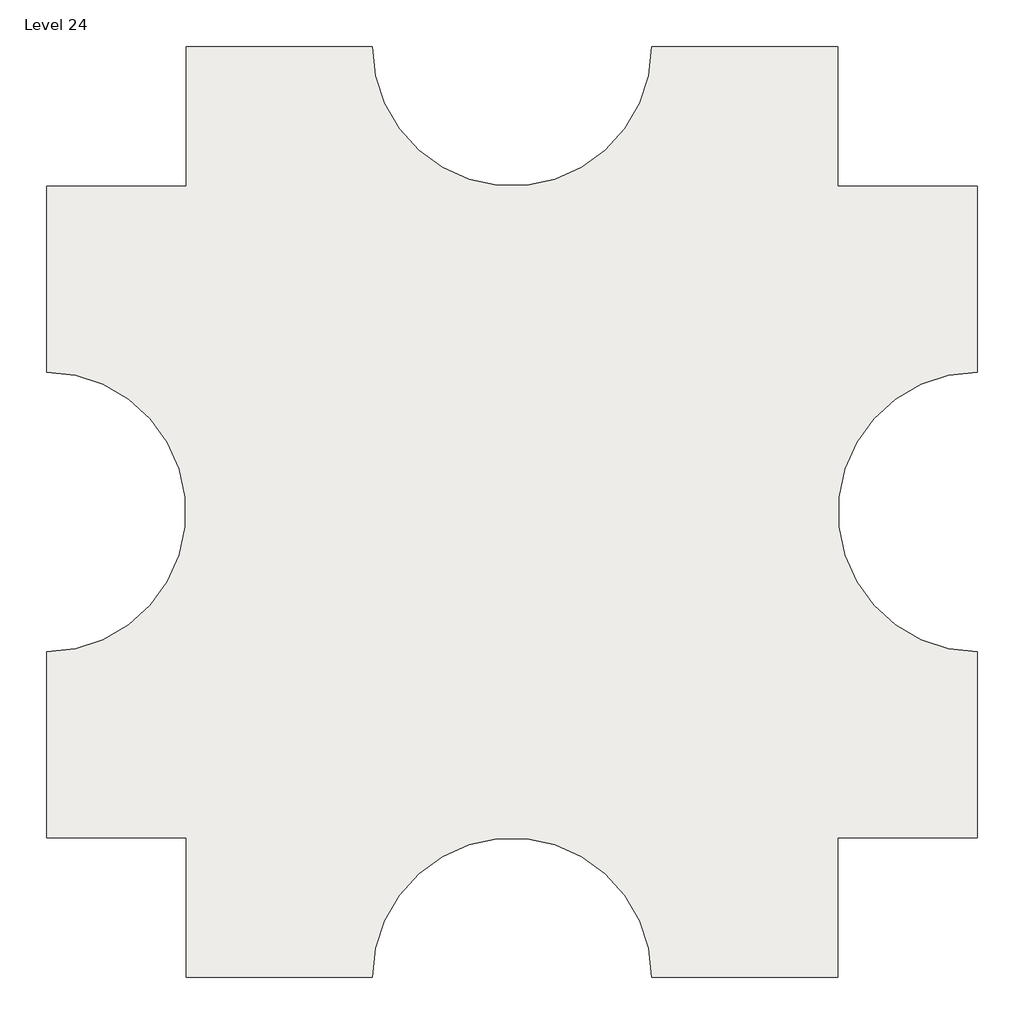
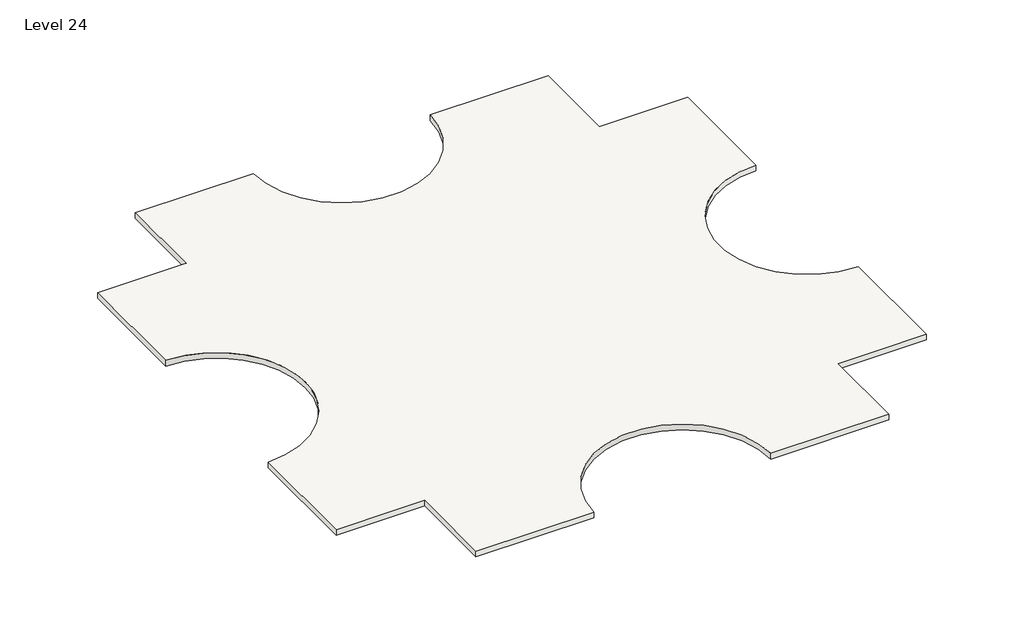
# One storey: 1 slab.
"""IFC4 building model written with IfcOpenShell, lengths in millimetres."""

import ifcopenshell
import ifcopenshell.guid

model = None  # the IFC model being written
_history = None  # IfcOwnerHistory: only IFC2X3 demands one
_inside = {}  # id of a spatial element -> (the spatial element, [elements in it])
_under = {}  # id of a project, library or spatial element -> (it, [spatial elements below it])
_declared = {}  # id of a project -> (the project, [libraries it declares])
_typed = {}  # id of a type object -> (the type object, [elements of that type])
_made_of = {}  # id of a material, layer set ... -> (it, [elements and type objects made of it])


def new_model(schema):
    """Start an empty IFC model of exactly this schema.

    Asked for "IFC4X3", IfcOpenShell would pick the latest addendum, in which some entities
    have other attributes; the version numbers below select the first issue.
    IFC2X3 requires an IfcOwnerHistory on every rooted entity: one is made here for all.
    """
    global model, _history
    if schema == "IFC4X3":
        model = ifcopenshell.file(schema_version=(4, 3, 0, 0))
    else:
        model = ifcopenshell.file(schema=schema)
    _inside.clear()
    _under.clear()
    _declared.clear()
    _typed.clear()
    _made_of.clear()
    _history = None
    if model.schema == "IFC2X3":
        org = make("IfcOrganization", Name="unknown")
        user = make(
            "IfcPersonAndOrganization",
            ThePerson=make("IfcPerson", FamilyName="unknown"),
            TheOrganization=org,
        )
        app = make(
            "IfcApplication",
            ApplicationDeveloper=org,
            Version="unknown",
            ApplicationFullName="unknown",
            ApplicationIdentifier="unknown",
        )
        _history = make(
            "IfcOwnerHistory",
            OwningUser=user,
            OwningApplication=app,
            ChangeAction="ADDED",
            CreationDate=0,
        )
    return model


def make(cls, **values):
    """One entity of the class cls with the attributes given. An attribute that is None is left unset."""
    return model.create_entity(
        cls, **{name: value for name, value in values.items() if value is not None}
    )


def rooted(cls, **values):
    """An entity with a GlobalId (a new one), such as an element, a storey or a relation."""
    return make(cls, GlobalId=ifcopenshell.guid.new(), OwnerHistory=_history, **values)


def si_unit(unit_type, name, prefix=None):
    """IfcSIUnit, for example si_unit("LENGTHUNIT", "METRE", prefix="MILLI")."""
    return make("IfcSIUnit", UnitType=unit_type, Prefix=prefix, Name=name)


def assignment(units):
    """IfcUnitAssignment: the units of a project."""
    return None if units is None else make("IfcUnitAssignment", Units=units)


def point(xyz):
    """IfcCartesianPoint."""
    return None if xyz is None else make("IfcCartesianPoint", Coordinates=xyz)


def direction(xyz):
    """IfcDirection."""
    return None if xyz is None else make("IfcDirection", DirectionRatios=xyz)


def frame(location, z_axis=None, x_axis=None):
    """IfcAxis2Placement3D, a coordinate frame: its origin and axes. An axis left out is left unset."""
    return make(
        "IfcAxis2Placement3D",
        Location=point(location),
        Axis=direction(z_axis),
        RefDirection=direction(x_axis),
    )


def frame_2d(location, x_axis=None):
    """IfcAxis2Placement2D, a coordinate frame in the plane: its origin and x axis."""
    return make(
        "IfcAxis2Placement2D", Location=point(location), RefDirection=direction(x_axis)
    )


def origin():
    """The frame at (0, 0, 0) with its axes left unset."""
    return frame((0.0, 0.0, 0.0))


def place(relative_to, where):
    """IfcLocalPlacement: puts the frame where relative to a parent placement (None: the world)."""
    return make(
        "IfcLocalPlacement", PlacementRelTo=relative_to, RelativePlacement=where
    )


def context(
    kind, dimensions, precision=None, world=None, true_north=None, identifier=None
):
    """IfcGeometricRepresentationContext, for example the 3D "Model" context."""
    return make(
        "IfcGeometricRepresentationContext",
        ContextIdentifier=identifier,
        ContextType=kind,
        CoordinateSpaceDimension=dimensions,
        Precision=precision,
        WorldCoordinateSystem=world,
        TrueNorth=true_north,
    )


def project(units=None, contexts=None):
    """IfcProject with its units and contexts."""
    return rooted(
        "IfcProject",
        Name="project",
        RepresentationContexts=contexts,
        UnitsInContext=assignment(units),
    )


def spatial(cls, under=None, at=None, **own):
    """A site, building, storey or space (cls), placed at a placement, below another one or the project."""
    s = rooted(cls, ObjectPlacement=at, **own)
    if under is not None:
        _under.setdefault(under.id(), (under, []))[1].append(s)
    return s


def polyline(points):
    """IfcPolyline through the points."""
    return make("IfcPolyline", Points=[point(p) for p in points])


def circle_curve(where, radius):
    """IfcCircle in the frame where."""
    return make("IfcCircle", Position=where, Radius=radius)


def trimmed(basis, trim1, trim2, sense, master):
    """IfcTrimmedCurve: the piece of a basis curve between two trims."""
    return make(
        "IfcTrimmedCurve",
        BasisCurve=basis,
        Trim1=trim1,
        Trim2=trim2,
        SenseAgreement=sense,
        MasterRepresentation=master,
    )


def segment(curve, same_sense, transition):
    """IfcCompositeCurveSegment."""
    return make(
        "IfcCompositeCurveSegment",
        Transition=transition,
        SameSense=same_sense,
        ParentCurve=curve,
    )


def composite_curve(segments, self_intersect=None):
    """IfcCompositeCurve: segments joined end to end."""
    return make("IfcCompositeCurve", Segments=segments, SelfIntersect=self_intersect)


def outline(outer, holes=None, kind="AREA"):
    """IfcArbitraryClosedProfileDef: a profile drawn as a closed curve; with holes, ...WithVoids."""
    if holes is None:
        return make("IfcArbitraryClosedProfileDef", ProfileType=kind, OuterCurve=outer)
    return make(
        "IfcArbitraryProfileDefWithVoids",
        ProfileType=kind,
        OuterCurve=outer,
        InnerCurves=holes,
    )


def extrude(swept, where, along, depth):
    """IfcExtrudedAreaSolid: the profile swept, set in the frame where, extruded along a direction by depth."""
    return make(
        "IfcExtrudedAreaSolid",
        SweptArea=swept,
        Position=where,
        ExtrudedDirection=direction(along),
        Depth=depth,
    )


def shape(context_of_items, identifier, shape_type, items):
    """IfcShapeRepresentation: the items that make up one representation, for example the "Body"."""
    return make(
        "IfcShapeRepresentation",
        ContextOfItems=context_of_items,
        RepresentationIdentifier=identifier,
        RepresentationType=shape_type,
        Items=items,
    )


def made_of(thing, what):
    """Note that an element or type object is made of a material, layer set ...; save() writes the relation."""
    if what is not None:
        _made_of.setdefault(what.id(), (what, []))[1].append(thing)
    return thing


def element(
    cls,
    number,
    at=None,
    inside=None,
    cuts=None,
    type_object=None,
    material=None,
    context=None,
    identifier="Body",
    shape_type=None,
    held_by="IfcProductDefinitionShape",
    body=None,
    shapes=None,
    **own,
):
    """One element of the class cls, such as IfcWall. Its Tag is "e" and its number.

    at: its placement. inside: the storey or other place that contains it. cuts: it is an
    opening in that element (IfcRelVoidsElement). A single representation is given by context,
    identifier, shape_type and body (its items); several are given by shapes. held_by: the class
    of the entity that holds the representations. save() writes the other relations.
    """
    e = rooted(cls, Tag="e%d" % number, ObjectPlacement=at, **own)
    if body is not None:
        shapes = [shape(context, identifier, shape_type, body)]
    if shapes is not None:
        e.Representation = make(held_by, Representations=shapes)
    if inside is not None:
        _inside.setdefault(inside.id(), (inside, []))[1].append(e)
    if cuts is not None:
        rooted(
            "IfcRelVoidsElement", RelatingBuildingElement=cuts, RelatedOpeningElement=e
        )
    if type_object is not None:
        _typed.setdefault(type_object.id(), (type_object, []))[1].append(e)
    return made_of(e, material)


def aggregate(whole, parts):
    """IfcRelAggregates: a whole, such as a stair, and the parts it consists of."""
    return rooted("IfcRelAggregates", RelatingObject=whole, RelatedObjects=parts)


def save(model, path):
    """Write the relations noted so far, then the file.

    IfcRelAggregates (storeys below a building ...), IfcRelContainedInSpatialStructure (elements
    in a storey), IfcRelDefinesByType, IfcRelAssociatesMaterial and IfcRelDeclares: one each for
    every whole, place, type object, material and project.
    """
    for whole, parts in _under.values():
        aggregate(whole, parts)
    for where, things in _inside.values():
        rooted(
            "IfcRelContainedInSpatialStructure",
            RelatedElements=things,
            RelatingStructure=where,
        )
    for kind, things in _typed.values():
        rooted("IfcRelDefinesByType", RelatedObjects=things, RelatingType=kind)
    for what, things in _made_of.values():
        rooted("IfcRelAssociatesMaterial", RelatedObjects=things, RelatingMaterial=what)
    for by, libraries in _declared.values():
        rooted("IfcRelDeclares", RelatingContext=by, RelatedDefinitions=libraries)
    model.write(path)


model = new_model("IFC4")

# Units and contexts
model_context = context("Model", 3, world=origin())
ifc_project = project(units=[si_unit("LENGTHUNIT", "METRE", prefix="MILLI")], contexts=[model_context])

# Site, building, storey
site = spatial("IfcSite", under=ifc_project)
building = spatial("IfcBuilding", under=site)
storey = spatial("IfcBuildingStorey", under=building, Name="Level 24", Elevation=70104.0)

# Slab
placement = place(None, origin())
element("IfcSlab", 1, ObjectType="Generic - 12\"", at=placement, inside=storey, context=model_context, shape_type="SweptSolid", body=[
    extrude(outline(composite_curve([segment(polyline([(-7150.3629456, 4479.6634547), (-7150.3629456, 9051.6634547), (-1054.3629456, 9051.6634547)]), True, "CONTINUOUS"), segment(trimmed(circle_curve(frame_2d((3517.6370544, 9051.6634547)), 4572.0), [point((-1054.3629456, 9051.6634547))], [point((8089.6370544, 9051.6634547))], True, "CARTESIAN"), True, "CONTINUOUS"), segment(polyline([(8089.6370544, 9051.6634547), (14185.6370544, 9051.6634547), (14185.6370544, 4479.6634547), (18757.6370544, 4479.6634547), (18757.6370544, -1616.3365453)]), True, "CONTINUOUS"), segment(trimmed(circle_curve(frame_2d((18757.6370544, -6188.3365453)), 4572.0), [point((18757.6370544, -1616.3365453))], [point((18757.6370544, -10760.3365453))], True, "CARTESIAN"), True, "CONTINUOUS"), segment(polyline([(18757.6370544, -10760.3365453), (18757.6370544, -16856.3365453), (14185.6370544, -16856.3365453), (14185.6370544, -21428.3365453), (8089.6370544, -21428.3365453)]), True, "CONTINUOUS"), segment(trimmed(circle_curve(frame_2d((3517.6370544, -21428.3365453)), 4572.0), [point((8089.6370544, -21428.3365453))], [point((-1054.3629456, -21428.3365453))], True, "CARTESIAN"), True, "CONTINUOUS"), segment(polyline([(-1054.3629456, -21428.3365453), (-7150.3629456, -21428.3365453), (-7150.3629456, -16856.3365453), (-11722.3629456, -16856.3365453), (-11722.3629456, -10760.3365453)]), True, "CONTINUOUS"), segment(trimmed(circle_curve(frame_2d((-11722.3629456, -6188.3365453)), 4572.0), [point((-11722.3629456, -10760.3365453))], [point((-11722.3629456, -1616.3365453))], True, "CARTESIAN"), True, "CONTINUOUS"), segment(polyline([(-11722.3629456, -1616.3365453), (-11722.3629456, 4479.6634547), (-7150.3629456, 4479.6634547)]), True, "CONTINUOUS")], self_intersect=False)), frame((0.0, 0.0, 69799.2), z_axis=(0.0, 0.0, 1.0), x_axis=(1.0, 0.0, 0.0)), (0.0, 0.0, 1.0), 304.8),
])

save(model, "model.ifc")
